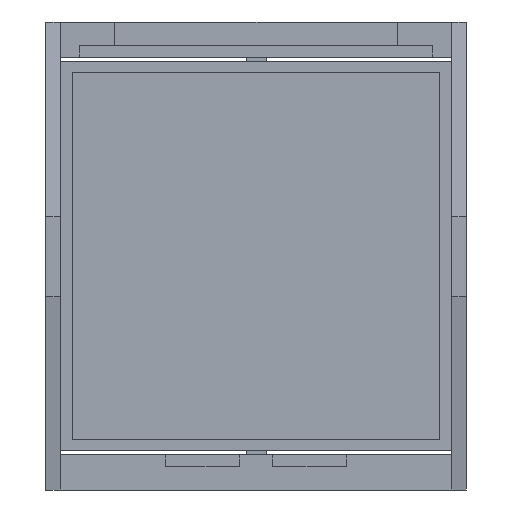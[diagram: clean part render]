
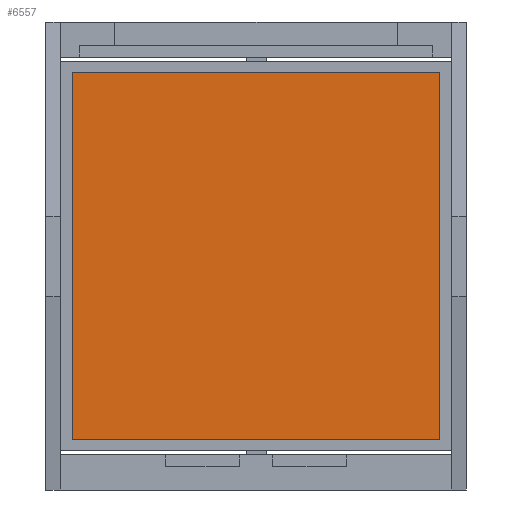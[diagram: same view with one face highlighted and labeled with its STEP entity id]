
A CAD part, front view. The second image highlights one B-rep face of the part: STEP entity #6557.
In plain terms, the highlighted planar face has unit normal (0, -1, 0).
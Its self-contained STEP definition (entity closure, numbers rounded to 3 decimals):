
#661 = CARTESIAN_POINT ( 'NONE',  ( -31.099, -0.416, 8.342 ) ) ;
#1388 = DIRECTION ( 'NONE',  ( 0., 1., 0. ) ) ;
#1852 = VERTEX_POINT ( 'NONE', #6157 ) ;
#2192 = EDGE_CURVE ( 'NONE', #7506, #7158, #3085, .T. ) ;
#2641 = EDGE_CURVE ( 'NONE', #1852, #7506, #5283, .T. ) ;
#2902 = VECTOR ( 'NONE', #6717, 1000. ) ;
#2965 = DIRECTION ( 'NONE',  ( 0., 0., -1. ) ) ;
#3085 = LINE ( 'NONE', #3881, #9351 ) ;
#3220 = EDGE_CURVE ( 'NONE', #6412, #1852, #7288, .T. ) ;
#3653 = AXIS2_PLACEMENT_3D ( 'NONE', #4332, #1388, #5104 ) ;
#3778 = CARTESIAN_POINT ( 'NONE',  ( -66.099, -0.416, 43.342 ) ) ;
#3881 = CARTESIAN_POINT ( 'NONE',  ( -66.099, -0.416, 8.342 ) ) ;
#4332 = CARTESIAN_POINT ( 'NONE',  ( -66.099, -0.416, 43.342 ) ) ;
#4455 = CARTESIAN_POINT ( 'NONE',  ( -66.099, -0.416, 8.342 ) ) ;
#4517 = ORIENTED_EDGE ( 'NONE', *, *, #8243, .F. ) ;
#5034 = CARTESIAN_POINT ( 'NONE',  ( -66.099, -0.416, 43.342 ) ) ;
#5104 = DIRECTION ( 'NONE',  ( 0., 0., 1. ) ) ;
#5283 = LINE ( 'NONE', #4455, #5880 ) ;
#5364 = CARTESIAN_POINT ( 'NONE',  ( -31.099, -0.416, 43.342 ) ) ;
#5418 = ORIENTED_EDGE ( 'NONE', *, *, #3220, .F. ) ;
#5640 = PLANE ( 'NONE',  #3653 ) ;
#5763 = VECTOR ( 'NONE', #2965, 1000. ) ;
#5880 = VECTOR ( 'NONE', #8242, 1000. ) ;
#6157 = CARTESIAN_POINT ( 'NONE',  ( -31.099, -0.416, 8.342 ) ) ;
#6412 = VERTEX_POINT ( 'NONE', #5364 ) ;
#6557 = ADVANCED_FACE ( 'NONE', ( #8688 ), #5640, .F. ) ;
#6717 = DIRECTION ( 'NONE',  ( 1., 0., 0. ) ) ;
#7144 = EDGE_LOOP ( 'NONE', ( #8511, #8004, #5418, #4517 ) ) ;
#7158 = VERTEX_POINT ( 'NONE', #5034 ) ;
#7288 = LINE ( 'NONE', #661, #5763 ) ;
#7506 = VERTEX_POINT ( 'NONE', #8879 ) ;
#8004 = ORIENTED_EDGE ( 'NONE', *, *, #2641, .F. ) ;
#8242 = DIRECTION ( 'NONE',  ( -1., 0., 0. ) ) ;
#8243 = EDGE_CURVE ( 'NONE', #7158, #6412, #8274, .T. ) ;
#8274 = LINE ( 'NONE', #3778, #2902 ) ;
#8426 = DIRECTION ( 'NONE',  ( 0., 0., 1. ) ) ;
#8511 = ORIENTED_EDGE ( 'NONE', *, *, #2192, .F. ) ;
#8688 = FACE_OUTER_BOUND ( 'NONE', #7144, .T. ) ;
#8879 = CARTESIAN_POINT ( 'NONE',  ( -66.099, -0.416, 8.342 ) ) ;
#9351 = VECTOR ( 'NONE', #8426, 1000. ) ;
